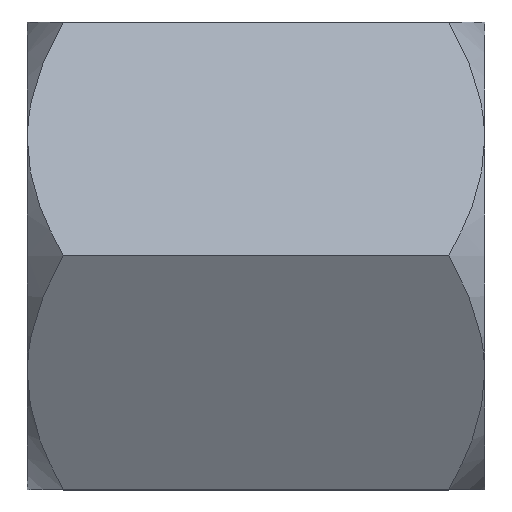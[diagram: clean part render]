
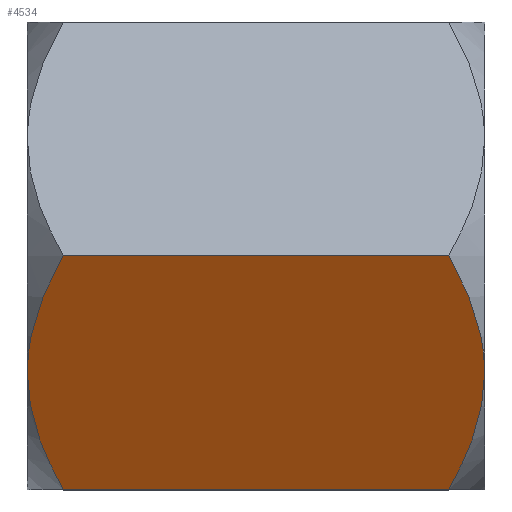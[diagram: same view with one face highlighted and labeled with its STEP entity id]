
A CAD part, top view. The second image highlights one B-rep face of the part: STEP entity #4534.
In plain terms, the highlighted planar face has unit normal (0, -0.5, 0.866).
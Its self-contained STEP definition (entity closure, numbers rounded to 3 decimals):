
#1974=DIRECTION('',(-1.,0.,0.));
#1975=VECTOR('',#1974,37.884);
#1976=CARTESIAN_POINT('',(18.942,0.,
26.558));
#1977=LINE('',#1976,#1975);
#2000=CARTESIAN_POINT('',(18.942,0.,
26.558));
#2001=CARTESIAN_POINT('',(19.301,-0.623,
26.199));
#2002=CARTESIAN_POINT('',(19.959,-1.838,25.497));
#2003=CARTESIAN_POINT('',(20.759,-3.553,24.507));
#2004=CARTESIAN_POINT('',(21.401,-5.204,23.554));
#2005=CARTESIAN_POINT('',(21.893,-6.809,22.627));
#2006=CARTESIAN_POINT('',(22.244,-8.386,21.716));
#2007=CARTESIAN_POINT('',(22.453,-9.946,20.816));
#2008=CARTESIAN_POINT('',(22.5,-10.983,20.217));
#2009=CARTESIAN_POINT('',(22.5,-11.5,19.919));
#2011=CARTESIAN_POINT('',(22.5,-11.5,19.919));
#2012=CARTESIAN_POINT('',(22.5,-12.017,19.62));
#2013=CARTESIAN_POINT('',(22.453,-13.054,19.021));
#2014=CARTESIAN_POINT('',(22.244,-14.614,18.121));
#2015=CARTESIAN_POINT('',(21.893,-16.191,17.21));
#2016=CARTESIAN_POINT('',(21.401,-17.796,16.284));
#2017=CARTESIAN_POINT('',(20.759,-19.447,15.331));
#2018=CARTESIAN_POINT('',(19.959,-21.162,14.34));
#2019=CARTESIAN_POINT('',(19.301,-22.377,13.639));
#2020=CARTESIAN_POINT('',(18.942,-23.,13.279));
#2022=DIRECTION('',(-1.,0.,0.));
#2023=VECTOR('',#2022,37.884);
#2024=CARTESIAN_POINT('',(18.942,-23.,13.279));
#2025=LINE('',#2024,#2023);
#2026=CARTESIAN_POINT('',(-22.5,-11.5,19.919));
#2027=CARTESIAN_POINT('',(-22.5,-12.017,19.62));
#2028=CARTESIAN_POINT('',(-22.453,-13.054,
19.021));
#2029=CARTESIAN_POINT('',(-22.244,-14.614,
18.121));
#2030=CARTESIAN_POINT('',(-21.893,-16.191,
17.21));
#2031=CARTESIAN_POINT('',(-21.401,-17.796,
16.284));
#2032=CARTESIAN_POINT('',(-20.759,-19.447,
15.331));
#2033=CARTESIAN_POINT('',(-19.959,-21.162,
14.34));
#2034=CARTESIAN_POINT('',(-19.301,-22.377,
13.639));
#2035=CARTESIAN_POINT('',(-18.942,-23.,13.279));
#2037=CARTESIAN_POINT('',(-18.942,0.,
26.558));
#2038=CARTESIAN_POINT('',(-19.301,-0.623,
26.199));
#2039=CARTESIAN_POINT('',(-19.959,-1.838,
25.497));
#2040=CARTESIAN_POINT('',(-20.759,-3.553,
24.507));
#2041=CARTESIAN_POINT('',(-21.401,-5.204,
23.554));
#2042=CARTESIAN_POINT('',(-21.893,-6.809,
22.627));
#2043=CARTESIAN_POINT('',(-22.244,-8.386,
21.716));
#2044=CARTESIAN_POINT('',(-22.453,-9.946,
20.816));
#2045=CARTESIAN_POINT('',(-22.5,-10.983,20.217));
#2046=CARTESIAN_POINT('',(-22.5,-11.5,19.919));
#2296=CARTESIAN_POINT('',(-22.5,-11.5,19.919));
#2297=VERTEX_POINT('',#2296);
#2308=CARTESIAN_POINT('',(22.5,-11.5,19.919));
#2309=VERTEX_POINT('',#2308);
#2316=VERTEX_POINT('',#2000);
#2317=VERTEX_POINT('',#2020);
#2318=VERTEX_POINT('',#2037);
#2319=VERTEX_POINT('',#2035);
#4518=CARTESIAN_POINT('',(30.225,-23.,13.279));
#4519=DIRECTION('',(0.,0.5,-0.866));
#4520=DIRECTION('',(0.,0.866,0.5));
#4521=AXIS2_PLACEMENT_3D('',#4518,#4519,#4520);
#4522=PLANE('',#4521);
#4523=ORIENTED_EDGE('',*,*,#4479,.T.);
#4524=ORIENTED_EDGE('',*,*,#4494,.T.);
#4526=ORIENTED_EDGE('',*,*,#4525,.T.);
#4528=ORIENTED_EDGE('',*,*,#4527,.F.);
#4530=ORIENTED_EDGE('',*,*,#4529,.F.);
#4531=ORIENTED_EDGE('',*,*,#4507,.F.);
#4532=EDGE_LOOP('',(#4523,#4524,#4526,#4528,#4530,#4531));
#4533=FACE_OUTER_BOUND('',#4532,.F.);
#4534=ADVANCED_FACE('',(#4533),#4522,.F.);
#2010=B_SPLINE_CURVE_WITH_KNOTS('',3,(#2000,#2001,#2002,#2003,#2004,#2005,#2006,
#2007,#2008,#2009),.UNSPECIFIED.,.F.,.F.,(4,1,1,1,1,1,1,4),(0.,
0.143,0.286,0.429,0.571,
0.714,0.857,1.),.UNSPECIFIED.);
#2021=B_SPLINE_CURVE_WITH_KNOTS('',3,(#2011,#2012,#2013,#2014,#2015,#2016,#2017,
#2018,#2019,#2020),.UNSPECIFIED.,.F.,.F.,(4,1,1,1,1,1,1,4),(0.,
0.143,0.286,0.429,0.571,
0.714,0.857,1.),.UNSPECIFIED.);
#2036=B_SPLINE_CURVE_WITH_KNOTS('',3,(#2026,#2027,#2028,#2029,#2030,#2031,#2032,
#2033,#2034,#2035),.UNSPECIFIED.,.F.,.F.,(4,1,1,1,1,1,1,4),(0.,
0.143,0.286,0.429,0.571,
0.714,0.857,1.),.UNSPECIFIED.);
#2047=B_SPLINE_CURVE_WITH_KNOTS('',3,(#2037,#2038,#2039,#2040,#2041,#2042,#2043,
#2044,#2045,#2046),.UNSPECIFIED.,.F.,.F.,(4,1,1,1,1,1,1,4),(0.,
0.143,0.286,0.429,0.571,
0.714,0.857,1.),.UNSPECIFIED.);
#4479=EDGE_CURVE('',#2316,#2309,#2010,.T.);
#4494=EDGE_CURVE('',#2309,#2317,#2021,.T.);
#4507=EDGE_CURVE('',#2316,#2318,#1977,.T.);
#4525=EDGE_CURVE('',#2317,#2319,#2025,.T.);
#4527=EDGE_CURVE('',#2297,#2319,#2036,.T.);
#4529=EDGE_CURVE('',#2318,#2297,#2047,.T.);
